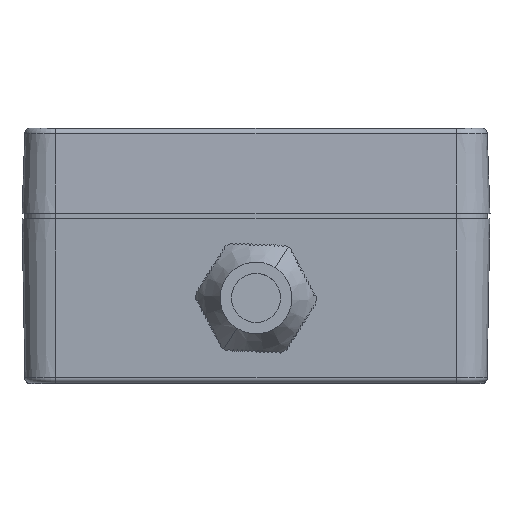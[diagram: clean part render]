
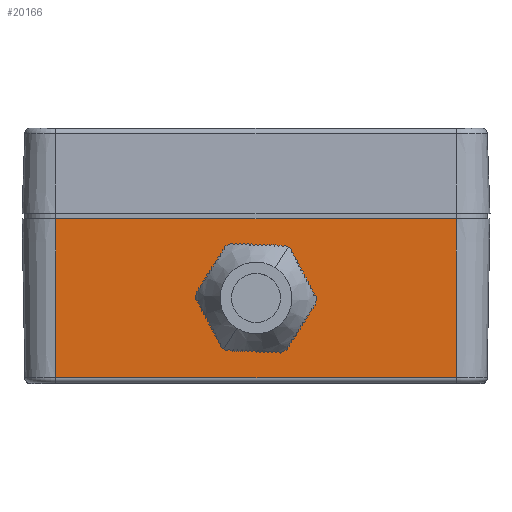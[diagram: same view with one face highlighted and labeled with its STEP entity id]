
A CAD part, top view. The second image highlights one B-rep face of the part: STEP entity #20166.
In plain terms, the highlighted planar face has unit normal (0, -0.018, 1).
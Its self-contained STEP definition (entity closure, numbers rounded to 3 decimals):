
#342 = EDGE_CURVE ( 'NONE', #12354, #29656, #30059, .T. ) ;
#736 = CARTESIAN_POINT ( 'NONE',  ( 35.3, 0., 32.5 ) ) ;
#1959 = CARTESIAN_POINT ( 'NONE',  ( 6.775, -1.45, 32.475 ) ) ;
#3147 = ORIENTED_EDGE ( 'NONE', *, *, #8210, .T. ) ;
#3591 =( BOUNDED_CURVE ( )  B_SPLINE_CURVE ( 3, ( #6651, #9852, #26105, #10399 ),
 .UNSPECIFIED., .F., .F. ) 
 B_SPLINE_CURVE_WITH_KNOTS ( ( 4, 4 ),
 ( 4.712, 7.854 ),
 .UNSPECIFIED. ) 
 CURVE ( )  GEOMETRIC_REPRESENTATION_ITEM ( )  RATIONAL_B_SPLINE_CURVE ( ( 1., 0.333, 0.333, 1. ) ) 
 REPRESENTATION_ITEM ( '' )  );
#4615 = CARTESIAN_POINT ( 'NONE',  ( -6.775, -15., 32.238 ) ) ;
#6651 = CARTESIAN_POINT ( 'NONE',  ( 6.775, -15., 32.238 ) ) ;
#6718 = PLANE ( 'NONE',  #7350 ) ;
#7350 = AXIS2_PLACEMENT_3D ( 'NONE', #736, #28157, #15880 ) ;
#7531 = CARTESIAN_POINT ( 'NONE',  ( -6.775, -15., 32.238 ) ) ;
#7561 = LINE ( 'NONE', #21992, #27083 ) ;
#8210 = EDGE_CURVE ( 'NONE', #13433, #32568, #14757, .T. ) ;
#8504 = FACE_BOUND ( 'NONE', #29913, .T. ) ;
#9511 = CARTESIAN_POINT ( 'NONE',  ( 6.775, -15., 32.238 ) ) ;
#9723 = EDGE_CURVE ( 'NONE', #32568, #12354, #7561, .T. ) ;
#9852 = CARTESIAN_POINT ( 'NONE',  ( 6.775, -28.55, 32.002 ) ) ;
#9995 = ORIENTED_EDGE ( 'NONE', *, *, #37809, .F. ) ;
#10259 = ORIENTED_EDGE ( 'NONE', *, *, #31427, .T. ) ;
#10399 = CARTESIAN_POINT ( 'NONE',  ( -6.775, -15., 32.238 ) ) ;
#10496 = DIRECTION ( 'NONE',  ( -1., 0., 0. ) ) ;
#12284 = EDGE_LOOP ( 'NONE', ( #9995, #3147, #33533, #25203 ) ) ;
#12354 = VERTEX_POINT ( 'NONE', #30367 ) ;
#13065 = DIRECTION ( 'NONE',  ( 1., 0., 0. ) ) ;
#13433 = VERTEX_POINT ( 'NONE', #21670 ) ;
#14757 = LINE ( 'NONE', #28247, #21934 ) ;
#15880 = DIRECTION ( 'NONE',  ( 0., -1., -0.017 ) ) ;
#16456 = CARTESIAN_POINT ( 'NONE',  ( 35.3, -1., 32.483 ) ) ;
#17412 = DIRECTION ( 'NONE',  ( 0., 1., 0.017 ) ) ;
#18090 = VERTEX_POINT ( 'NONE', #9511 ) ;
#20166 = ADVANCED_FACE ( 'NONE', ( #8504, #25167 ), #6718, .T. ) ;
#20639 = CARTESIAN_POINT ( 'NONE',  ( -35.3, 0., 32.5 ) ) ;
#21670 = CARTESIAN_POINT ( 'NONE',  ( -35.3, -29.017, 31.993 ) ) ;
#21864 = DIRECTION ( 'NONE',  ( 0., 1., 0.017 ) ) ;
#21922 =( BOUNDED_CURVE ( )  B_SPLINE_CURVE ( 3, ( #4615, #29496, #1959, #26185 ),
 .UNSPECIFIED., .F., .F. ) 
 B_SPLINE_CURVE_WITH_KNOTS ( ( 4, 4 ),
 ( 1.571, 4.712 ),
 .UNSPECIFIED. ) 
 CURVE ( )  GEOMETRIC_REPRESENTATION_ITEM ( )  RATIONAL_B_SPLINE_CURVE ( ( 1., 0.333, 0.333, 1. ) ) 
 REPRESENTATION_ITEM ( '' )  );
#21934 = VECTOR ( 'NONE', #13065, 1000. ) ;
#21992 = CARTESIAN_POINT ( 'NONE',  ( 35.3, 0., 32.5 ) ) ;
#24295 = ORIENTED_EDGE ( 'NONE', *, *, #25678, .T. ) ;
#25167 = FACE_OUTER_BOUND ( 'NONE', #12284, .T. ) ;
#25203 = ORIENTED_EDGE ( 'NONE', *, *, #342, .T. ) ;
#25263 = VECTOR ( 'NONE', #17412, 1000. ) ;
#25311 = VECTOR ( 'NONE', #10496, 1000. ) ;
#25678 = EDGE_CURVE ( 'NONE', #18090, #34374, #3591, .T. ) ;
#26105 = CARTESIAN_POINT ( 'NONE',  ( -6.775, -28.55, 32.002 ) ) ;
#26185 = CARTESIAN_POINT ( 'NONE',  ( 6.775, -15., 32.238 ) ) ;
#27083 = VECTOR ( 'NONE', #21864, 1000. ) ;
#27608 = CARTESIAN_POINT ( 'NONE',  ( 35.3, -29.017, 31.993 ) ) ;
#28157 = DIRECTION ( 'NONE',  ( 0., -0.017, 1. ) ) ;
#28247 = CARTESIAN_POINT ( 'NONE',  ( 35.3, -29.017, 31.993 ) ) ;
#29496 = CARTESIAN_POINT ( 'NONE',  ( -6.775, -1.45, 32.475 ) ) ;
#29656 = VERTEX_POINT ( 'NONE', #38945 ) ;
#29913 = EDGE_LOOP ( 'NONE', ( #10259, #24295 ) ) ;
#30059 = LINE ( 'NONE', #16456, #25311 ) ;
#30367 = CARTESIAN_POINT ( 'NONE',  ( 35.3, -1., 32.483 ) ) ;
#31427 = EDGE_CURVE ( 'NONE', #34374, #18090, #21922, .T. ) ;
#32568 = VERTEX_POINT ( 'NONE', #27608 ) ;
#33533 = ORIENTED_EDGE ( 'NONE', *, *, #9723, .T. ) ;
#33826 = LINE ( 'NONE', #20639, #25263 ) ;
#34374 = VERTEX_POINT ( 'NONE', #7531 ) ;
#37809 = EDGE_CURVE ( 'NONE', #13433, #29656, #33826, .T. ) ;
#38945 = CARTESIAN_POINT ( 'NONE',  ( -35.3, -1., 32.483 ) ) ;
